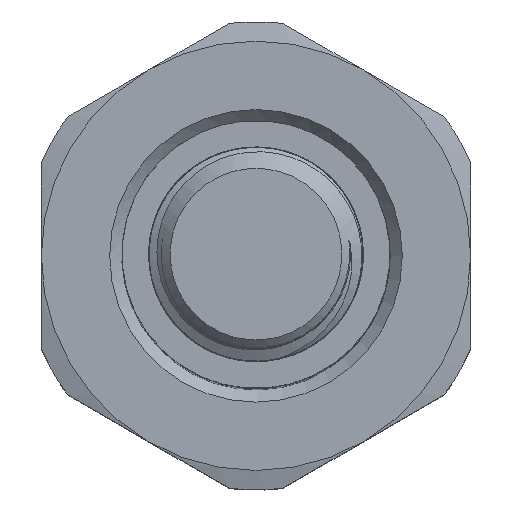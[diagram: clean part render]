
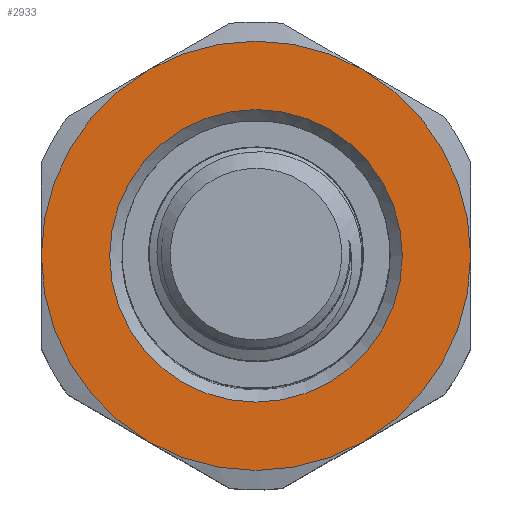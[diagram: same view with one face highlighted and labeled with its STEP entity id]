
A CAD part, top view. The second image highlights one B-rep face of the part: STEP entity #2933.
In plain terms, the highlighted planar face has unit normal (0, 0, 1).
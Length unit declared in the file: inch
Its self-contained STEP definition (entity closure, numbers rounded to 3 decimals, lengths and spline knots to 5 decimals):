
#67=FACE_BOUND('',#541,.T.);
#128=PLANE('',#3211);
#341=FACE_OUTER_BOUND('',#540,.T.);
#540=EDGE_LOOP('',(#2109,#2110,#2111,#2112,#2113,#2114));
#541=EDGE_LOOP('',(#2115));
#869=CIRCLE('',#3181,0.5);
#870=CIRCLE('',#3183,0.5);
#871=CIRCLE('',#3185,0.5);
#872=CIRCLE('',#3187,0.5);
#873=CIRCLE('',#3189,0.5);
#874=CIRCLE('',#3191,0.5);
#888=CIRCLE('',#3212,0.34075);
#1254=VERTEX_POINT('',#6003);
#1262=VERTEX_POINT('',#6030);
#1268=VERTEX_POINT('',#6054);
#1274=VERTEX_POINT('',#6078);
#1280=VERTEX_POINT('',#6102);
#1286=VERTEX_POINT('',#6126);
#1306=VERTEX_POINT('',#6415);
#1592=EDGE_CURVE('',#1280,#1274,#869,.T.);
#1593=EDGE_CURVE('',#1286,#1280,#870,.T.);
#1594=EDGE_CURVE('',#1274,#1268,#871,.T.);
#1595=EDGE_CURVE('',#1268,#1262,#872,.T.);
#1596=EDGE_CURVE('',#1254,#1286,#873,.T.);
#1597=EDGE_CURVE('',#1262,#1254,#874,.T.);
#1618=EDGE_CURVE('',#1306,#1306,#888,.T.);
#2109=ORIENTED_EDGE('',*,*,#1596,.T.);
#2110=ORIENTED_EDGE('',*,*,#1593,.T.);
#2111=ORIENTED_EDGE('',*,*,#1592,.T.);
#2112=ORIENTED_EDGE('',*,*,#1594,.T.);
#2113=ORIENTED_EDGE('',*,*,#1595,.T.);
#2114=ORIENTED_EDGE('',*,*,#1597,.T.);
#2115=ORIENTED_EDGE('',*,*,#1618,.F.);
#2933=ADVANCED_FACE('',(#341,#67),#128,.T.);
#3181=AXIS2_PLACEMENT_3D('',#6159,#3666,#3667);
#3183=AXIS2_PLACEMENT_3D('',#6161,#3670,#3671);
#3185=AXIS2_PLACEMENT_3D('',#6163,#3674,#3675);
#3187=AXIS2_PLACEMENT_3D('',#6165,#3678,#3679);
#3189=AXIS2_PLACEMENT_3D('',#6167,#3682,#3683);
#3191=AXIS2_PLACEMENT_3D('',#6169,#3686,#3687);
#3211=AXIS2_PLACEMENT_3D('',#6414,#3727,#3728);
#3212=AXIS2_PLACEMENT_3D('',#6416,#3729,#3730);
#3666=DIRECTION('center_axis',(0.,0.,1.));
#3667=DIRECTION('ref_axis',(0.,1.,0.));
#3670=DIRECTION('center_axis',(0.,0.,1.));
#3671=DIRECTION('ref_axis',(0.,1.,0.));
#3674=DIRECTION('center_axis',(0.,0.,1.));
#3675=DIRECTION('ref_axis',(0.,1.,0.));
#3678=DIRECTION('center_axis',(0.,0.,1.));
#3679=DIRECTION('ref_axis',(0.,1.,0.));
#3682=DIRECTION('center_axis',(0.,0.,1.));
#3683=DIRECTION('ref_axis',(0.,1.,0.));
#3686=DIRECTION('center_axis',(0.,0.,1.));
#3687=DIRECTION('ref_axis',(0.,1.,0.));
#3727=DIRECTION('center_axis',(0.,0.,1.));
#3728=DIRECTION('ref_axis',(1.,0.,0.));
#3729=DIRECTION('center_axis',(0.,0.,1.));
#3730=DIRECTION('ref_axis',(-1.,0.,0.));
#6003=CARTESIAN_POINT('',(0.5,0.,0.));
#6030=CARTESIAN_POINT('',(0.25,-0.43301,0.));
#6054=CARTESIAN_POINT('',(-0.25,-0.43301,0.));
#6078=CARTESIAN_POINT('',(-0.5,0.,0.));
#6102=CARTESIAN_POINT('',(-0.25,0.43301,0.));
#6126=CARTESIAN_POINT('',(0.25,0.43301,0.));
#6159=CARTESIAN_POINT('Origin',(0.,0.,0.));
#6161=CARTESIAN_POINT('Origin',(0.,0.,0.));
#6163=CARTESIAN_POINT('Origin',(0.,0.,0.));
#6165=CARTESIAN_POINT('Origin',(0.,0.,0.));
#6167=CARTESIAN_POINT('Origin',(0.,0.,0.));
#6169=CARTESIAN_POINT('Origin',(0.,0.,0.));
#6414=CARTESIAN_POINT('Origin',(0.,0.,
0.));
#6415=CARTESIAN_POINT('',(0.34075,0.,0.));
#6416=CARTESIAN_POINT('Origin',(0.,0.,0.));
